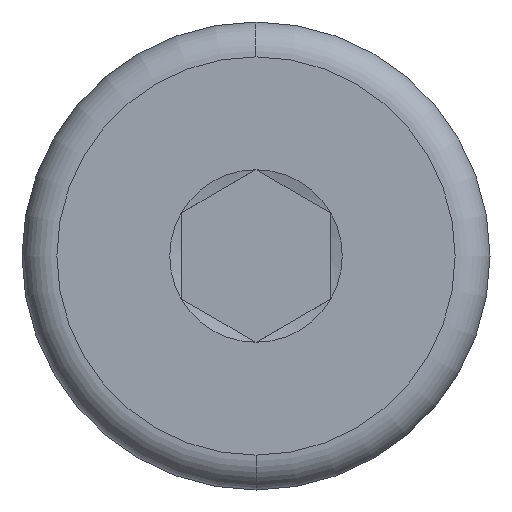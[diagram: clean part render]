
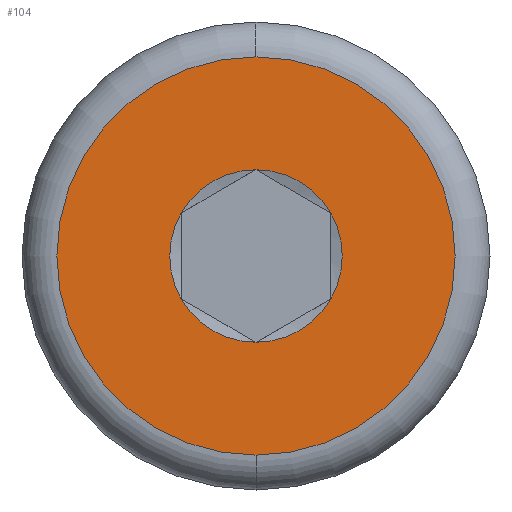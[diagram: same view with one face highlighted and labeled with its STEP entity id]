
A CAD part, left-side view. The second image highlights one B-rep face of the part: STEP entity #104.
In plain terms, the highlighted planar face has unit normal (-1, 0, 0).
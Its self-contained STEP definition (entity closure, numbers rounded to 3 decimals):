
#1 = CARTESIAN_POINT ( 'NONE',  ( 0., 0., 0. ) ) ;
#10 = CARTESIAN_POINT ( 'NONE',  ( 0., 0., -1.732 ) ) ;
#27 = CARTESIAN_POINT ( 'NONE',  ( 0., -1.5, 0.866 ) ) ;
#28 = FACE_BOUND ( 'NONE', #441, .T. ) ;
#30 = CARTESIAN_POINT ( 'NONE',  ( 0., 0., 0. ) ) ;
#34 = EDGE_CURVE ( 'NONE', #418, #629, #347, .T. ) ;
#43 = CARTESIAN_POINT ( 'NONE',  ( 0., 0., 0. ) ) ;
#49 = AXIS2_PLACEMENT_3D ( 'NONE', #1, #567, #190 ) ;
#62 = EDGE_CURVE ( 'NONE', #169, #513, #498, .T. ) ;
#77 = CIRCLE ( 'NONE', #316, 1.732 ) ;
#86 = CARTESIAN_POINT ( 'NONE',  ( 0., 0., 0. ) ) ;
#90 = AXIS2_PLACEMENT_3D ( 'NONE', #505, #451, #507 ) ;
#93 = ORIENTED_EDGE ( 'NONE', *, *, #62, .T. ) ;
#104 = ADVANCED_FACE ( 'NONE', ( #28, #553 ), #608, .T. ) ;
#115 = CARTESIAN_POINT ( 'NONE',  ( 0., 0., 4. ) ) ;
#118 = AXIS2_PLACEMENT_3D ( 'NONE', #512, #620, #142 ) ;
#123 = EDGE_CURVE ( 'NONE', #357, #619, #77, .T. ) ;
#125 = CARTESIAN_POINT ( 'NONE',  ( 0., 0., 0. ) ) ;
#142 = DIRECTION ( 'NONE',  ( 0., 0., -1. ) ) ;
#143 = ORIENTED_EDGE ( 'NONE', *, *, #464, .T. ) ;
#153 = ORIENTED_EDGE ( 'NONE', *, *, #217, .T. ) ;
#169 = VERTEX_POINT ( 'NONE', #383 ) ;
#188 = DIRECTION ( 'NONE',  ( 1., 0., 0. ) ) ;
#189 = ORIENTED_EDGE ( 'NONE', *, *, #224, .T. ) ;
#190 = DIRECTION ( 'NONE',  ( 0., 0., -1. ) ) ;
#205 = AXIS2_PLACEMENT_3D ( 'NONE', #276, #604, #232 ) ;
#214 = EDGE_CURVE ( 'NONE', #619, #606, #541, .T. ) ;
#217 = EDGE_CURVE ( 'NONE', #496, #357, #326, .T. ) ;
#224 = EDGE_CURVE ( 'NONE', #606, #169, #288, .T. ) ;
#232 = DIRECTION ( 'NONE',  ( 0., 0., 1. ) ) ;
#235 = AXIS2_PLACEMENT_3D ( 'NONE', #43, #188, #406 ) ;
#245 = CARTESIAN_POINT ( 'NONE',  ( 0., 0., -4. ) ) ;
#273 = CARTESIAN_POINT ( 'NONE',  ( 0., -1.5, -0.866 ) ) ;
#276 = CARTESIAN_POINT ( 'NONE',  ( 0., 0., 0. ) ) ;
#288 = CIRCLE ( 'NONE', #90, 1.732 ) ;
#292 = CARTESIAN_POINT ( 'NONE',  ( 0., 1.5, -0.866 ) ) ;
#294 = DIRECTION ( 'NONE',  ( 1., 0., 0. ) ) ;
#316 = AXIS2_PLACEMENT_3D ( 'NONE', #125, #294, #437 ) ;
#326 = CIRCLE ( 'NONE', #118, 1.732 ) ;
#334 = DIRECTION ( 'NONE',  ( 0., 0., -1. ) ) ;
#335 = DIRECTION ( 'NONE',  ( 1., 0., 0. ) ) ;
#336 = CIRCLE ( 'NONE', #49, 4. ) ;
#337 = CIRCLE ( 'NONE', #565, 1.732 ) ;
#346 = DIRECTION ( 'NONE',  ( 0., 0., -1. ) ) ;
#347 = CIRCLE ( 'NONE', #670, 4. ) ;
#357 = VERTEX_POINT ( 'NONE', #10 ) ;
#360 = ORIENTED_EDGE ( 'NONE', *, *, #123, .T. ) ;
#382 = DIRECTION ( 'NONE',  ( 1., 0., 0. ) ) ;
#383 = CARTESIAN_POINT ( 'NONE',  ( 0., 0., 1.732 ) ) ;
#406 = DIRECTION ( 'NONE',  ( 0., 0., -1. ) ) ;
#418 = VERTEX_POINT ( 'NONE', #115 ) ;
#437 = DIRECTION ( 'NONE',  ( 0., 0., -1. ) ) ;
#441 = EDGE_LOOP ( 'NONE', ( #189, #93, #143, #153, #360, #518 ) ) ;
#451 = DIRECTION ( 'NONE',  ( 1., 0., 0. ) ) ;
#464 = EDGE_CURVE ( 'NONE', #513, #496, #337, .T. ) ;
#485 = ORIENTED_EDGE ( 'NONE', *, *, #34, .F. ) ;
#496 = VERTEX_POINT ( 'NONE', #273 ) ;
#498 = CIRCLE ( 'NONE', #509, 1.732 ) ;
#505 = CARTESIAN_POINT ( 'NONE',  ( 0., 0., 0. ) ) ;
#507 = DIRECTION ( 'NONE',  ( 0., 0., -1. ) ) ;
#509 = AXIS2_PLACEMENT_3D ( 'NONE', #30, #659, #538 ) ;
#512 = CARTESIAN_POINT ( 'NONE',  ( 0., 0., 0. ) ) ;
#513 = VERTEX_POINT ( 'NONE', #27 ) ;
#518 = ORIENTED_EDGE ( 'NONE', *, *, #214, .T. ) ;
#538 = DIRECTION ( 'NONE',  ( 0., 0., -1. ) ) ;
#541 = CIRCLE ( 'NONE', #235, 1.732 ) ;
#547 = ORIENTED_EDGE ( 'NONE', *, *, #648, .F. ) ;
#553 = FACE_OUTER_BOUND ( 'NONE', #667, .T. ) ;
#565 = AXIS2_PLACEMENT_3D ( 'NONE', #86, #382, #334 ) ;
#567 = DIRECTION ( 'NONE',  ( 1., 0., 0. ) ) ;
#597 = CARTESIAN_POINT ( 'NONE',  ( 0., 0., 0. ) ) ;
#604 = DIRECTION ( 'NONE',  ( -1., 0., 0. ) ) ;
#606 = VERTEX_POINT ( 'NONE', #650 ) ;
#608 = PLANE ( 'NONE',  #205 ) ;
#619 = VERTEX_POINT ( 'NONE', #292 ) ;
#620 = DIRECTION ( 'NONE',  ( 1., 0., 0. ) ) ;
#629 = VERTEX_POINT ( 'NONE', #245 ) ;
#648 = EDGE_CURVE ( 'NONE', #629, #418, #336, .T. ) ;
#650 = CARTESIAN_POINT ( 'NONE',  ( 0., 1.5, 0.866 ) ) ;
#659 = DIRECTION ( 'NONE',  ( 1., 0., 0. ) ) ;
#667 = EDGE_LOOP ( 'NONE', ( #547, #485 ) ) ;
#670 = AXIS2_PLACEMENT_3D ( 'NONE', #597, #335, #346 ) ;
